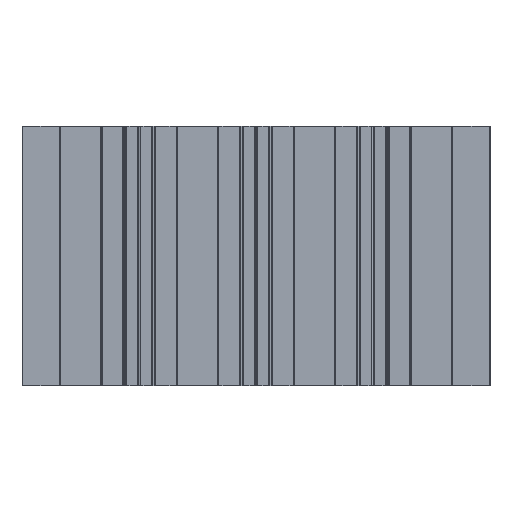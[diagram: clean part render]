
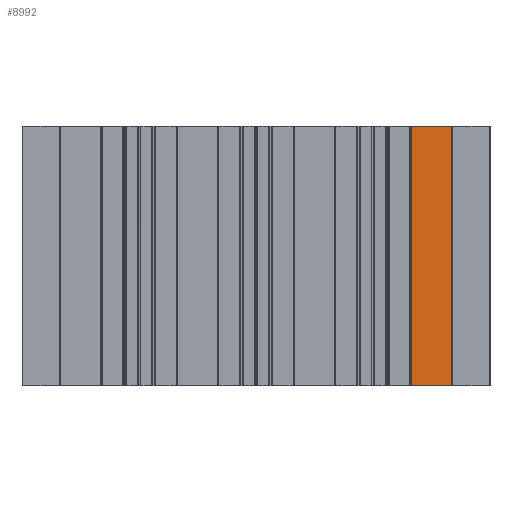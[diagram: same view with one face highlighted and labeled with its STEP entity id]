
A CAD part, front view. The second image highlights one B-rep face of the part: STEP entity #8992.
In plain terms, the highlighted free-form (B-spline) face has degree [1, 1] with [2, 2] control points.
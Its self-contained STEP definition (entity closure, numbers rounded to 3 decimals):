
#534 = B_SPLINE_CURVE_WITH_KNOTS ( 'NONE', 1,
 ( #10577, #3751 ),
 .UNSPECIFIED., .F., .F.,
 ( 2, 2 ),
 ( -1., 0. ),
 .UNSPECIFIED. ) ;
#1037 = CARTESIAN_POINT ( 'NONE',  ( 3075.898, 1615.084, 0. ) ) ;
#1200 = CARTESIAN_POINT ( 'NONE',  ( 3075.898, 1615.084, 0. ) ) ;
#1478 = ORIENTED_EDGE ( 'NONE', *, *, #7084, .F. ) ;
#1873 = VERTEX_POINT ( 'NONE', #10882 ) ;
#2051 = VERTEX_POINT ( 'NONE', #10195 ) ;
#2215 = CARTESIAN_POINT ( 'NONE',  ( 3091.498, 1615.084, 0. ) ) ;
#2481 = B_SPLINE_CURVE_WITH_KNOTS ( 'NONE', 1,
 ( #1200, #2215 ),
 .UNSPECIFIED., .F., .F.,
 ( 2, 2 ),
 ( 0., 1. ),
 .UNSPECIFIED. ) ;
#2531 = CARTESIAN_POINT ( 'NONE',  ( 3075.898, 1615.084, 100. ) ) ;
#2622 = CARTESIAN_POINT ( 'NONE',  ( 3075.898, 1615.084, 0. ) ) ;
#3461 = ORIENTED_EDGE ( 'NONE', *, *, #11497, .F. ) ;
#3751 = CARTESIAN_POINT ( 'NONE',  ( 3091.498, 1615.084, 0. ) ) ;
#4591 = ORIENTED_EDGE ( 'NONE', *, *, #9757, .F. ) ;
#6148 = B_SPLINE_CURVE_WITH_KNOTS ( 'NONE', 1,
 ( #12312, #9380 ),
 .UNSPECIFIED., .F., .F.,
 ( 2, 2 ),
 ( 0., 1. ),
 .UNSPECIFIED. ) ;
#6351 = B_SPLINE_CURVE_WITH_KNOTS ( 'NONE', 1,
 ( #2622, #2531 ),
 .UNSPECIFIED., .F., .F.,
 ( 2, 2 ),
 ( -1., 0. ),
 .UNSPECIFIED. ) ;
#7084 = EDGE_CURVE ( 'NONE', #2051, #8564, #6351, .T. ) ;
#7328 = EDGE_CURVE ( 'NONE', #2051, #1873, #2481, .T. ) ;
#8564 = VERTEX_POINT ( 'NONE', #10741 ) ;
#8991 = CARTESIAN_POINT ( 'NONE',  ( 3091.498, 1615.084, 100. ) ) ;
#8992 = ADVANCED_FACE ( 'NONE', ( #10715 ), #10497, .F. ) ;
#9380 = CARTESIAN_POINT ( 'NONE',  ( 3091.498, 1615.084, 100. ) ) ;
#9475 = ORIENTED_EDGE ( 'NONE', *, *, #7328, .T. ) ;
#9734 = EDGE_LOOP ( 'NONE', ( #4591, #3461, #1478, #9475 ) ) ;
#9757 = EDGE_CURVE ( 'NONE', #12009, #1873, #534, .T. ) ;
#10195 = CARTESIAN_POINT ( 'NONE',  ( 3075.898, 1615.084, 0. ) ) ;
#10497 = B_SPLINE_SURFACE_WITH_KNOTS ( 'NONE', 1, 1, ( 
 ( #1037, #10860 ),
 ( #12087, #8991 ) ),
 .UNSPECIFIED., .F., .F., .F.,
 ( 2, 2 ),
 ( 2, 2 ),
 ( 0., 1. ),
 ( 0., 1. ),
 .UNSPECIFIED. ) ;
#10577 = CARTESIAN_POINT ( 'NONE',  ( 3091.498, 1615.084, 100. ) ) ;
#10715 = FACE_OUTER_BOUND ( 'NONE', #9734, .T. ) ;
#10741 = CARTESIAN_POINT ( 'NONE',  ( 3075.898, 1615.084, 100. ) ) ;
#10860 = CARTESIAN_POINT ( 'NONE',  ( 3091.498, 1615.084, 0. ) ) ;
#10882 = CARTESIAN_POINT ( 'NONE',  ( 3091.498, 1615.084, 0. ) ) ;
#11275 = CARTESIAN_POINT ( 'NONE',  ( 3091.498, 1615.084, 100. ) ) ;
#11497 = EDGE_CURVE ( 'NONE', #8564, #12009, #6148, .T. ) ;
#12009 = VERTEX_POINT ( 'NONE', #11275 ) ;
#12087 = CARTESIAN_POINT ( 'NONE',  ( 3075.898, 1615.084, 100. ) ) ;
#12312 = CARTESIAN_POINT ( 'NONE',  ( 3075.898, 1615.084, 100. ) ) ;
